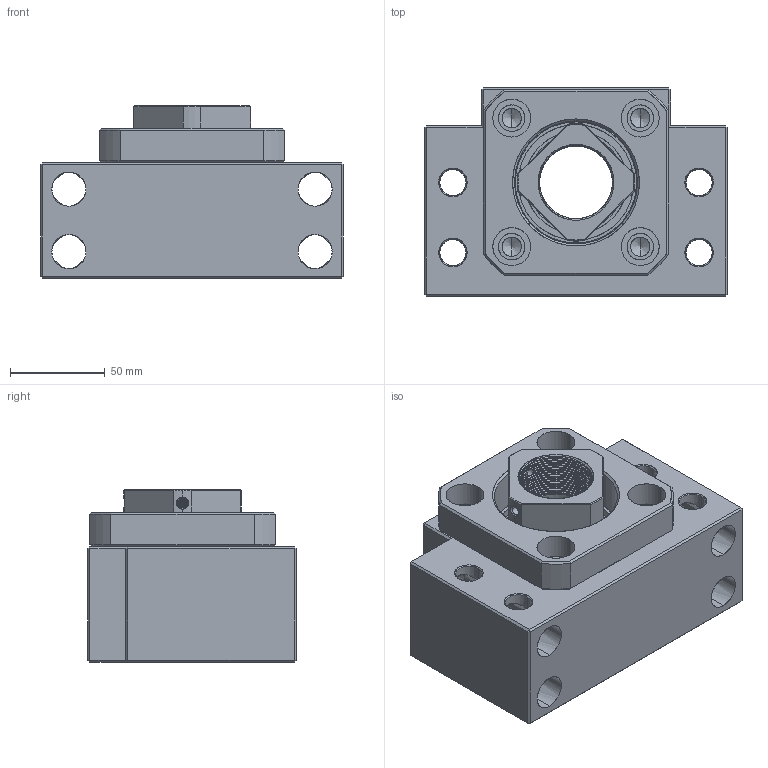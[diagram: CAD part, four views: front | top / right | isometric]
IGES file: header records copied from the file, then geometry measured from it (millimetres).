
Start section: SolidWorks IGES file using analytic representation for surfaces
Global section: file name: Z:\Accessories\_GC_!!!\SYK\Support unit\BK\BK40.IGS; native system: SolidWorks 2015; preprocessor: SolidWorks 2015; author: User; date: 170504.144732; units: millimetre
Bounding box: 160 x 110 x 91 mm (x, y, z)
Surface area: 206664.4 mm2 (no closed solid volume)
Topology: 0 solids, 0 shells, 505 faces, 9189 edges, 9064 vertices
Faces by surface type: bspline 265, revolution 240
